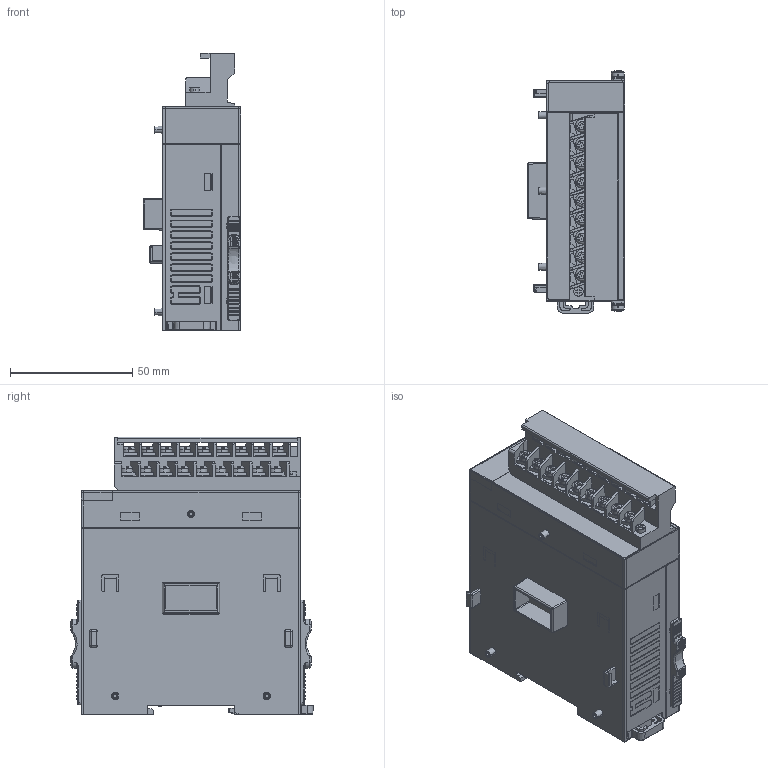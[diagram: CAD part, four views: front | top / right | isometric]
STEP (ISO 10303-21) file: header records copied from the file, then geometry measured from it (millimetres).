
FILE_DESCRIPTION((''),'2;1');
FILE_NAME('VC-0808ENR_ASM','2022-11-11T',('v3615'),(''),'CREO PARAMETRIC BY PTC INC, 2016260','CREO PARAMETRIC BY PTC INC, 2016260','');
FILE_SCHEMA(('AUTOMOTIVE_DESIGN { 1 0 10303 214 1 1 1 1 }'));
Products named in the file (35): PLC-RIGHT_SKEL0001; VC-0808ENR-P001; VC-0808ENR-P001_ASM; VC-0808ENR-P002; VC-0808ENR-P003; VC-0808ENR-P004; VC-0808ENR-P005; VC-0808ENT-P002; VC-0016ENR-P002; VC-0016ENT-P002; VC-1600ENN-P002; VC-4AD-P002; VC-4DA-P002; VC-4PT-P002; VC-4TC-P002; VC1-1614MAT-P008; VC1-1614MAT-P010; VC-0808ENR-P_ASM; VC0016ENRIO2; TB762-22V-9P-GY5-H; TB762-22V-9P-GY5-H-C; VC0016ENTIO2-519; VC0808ENRIO2-A1_0; VC0016ENTIO2-0929; VC0016ENRIO2_ASM; VC0016ENRIO1; VC0016ENRIO1-A1_0; VC0016ENRIO1_ASM; VC0808ENTLED; VC0016ENRLED-A1_0; VC0016LED-0927; VC0808ENTLED_ASM; VC-0808ENR-D_ASM; VC-8-8R-P002; VC-0808ENR_ASM
Assembly tree (35 placements, depth 4):
  VC-0808ENR_ASM
    PLC-RIGHT_SKEL0001
    VC-0808ENR-P_ASM
      VC-0808ENR-P001_ASM
        VC-0808ENR-P001
      VC-0808ENR-P002
      VC-0808ENR-P003
      VC-0808ENR-P004
      VC-0808ENR-P005
      VC-0808ENT-P002
      VC-0016ENR-P002
      VC-0016ENT-P002
      VC-1600ENN-P002
      VC-4AD-P002
      VC-4DA-P002
      VC-4PT-P002
      VC-4TC-P002
      VC1-1614MAT-P008
      VC1-1614MAT-P010  x2
    VC-0808ENR-D_ASM
      VC0016ENRIO2_ASM
        VC0016ENRIO2
        TB762-22V-9P-GY5-H
        TB762-22V-9P-GY5-H-C
        VC0016ENTIO2-519
        VC0808ENRIO2-A1_0
        VC0016ENTIO2-0929
      VC0016ENRIO1_ASM
        VC0016ENRIO1
        VC0016ENRIO1-A1_0
      VC0808ENTLED_ASM
        VC0808ENTLED
        VC0016ENRLED-A1_0
        VC0016LED-0927
    VC-8-8R-P002
Bounding box: 40 x 99.2 x 113.7 mm (x, y, z)
Volume: 356711.5 mm3; surface area: 167869.1 mm2
Topology: 25 solids, 25 shells, 4835 faces, 13129 edges, 8477 vertices
Faces by surface type: plane 3319, cylinder 1140, torus 181, bspline 125, cone 44, sphere 24, extrusion 2
Entity records: 195940 total; most frequent: CARTESIAN_POINT 33975, ORIENTED_EDGE 24762, DIRECTION 22248, EDGE_CURVE 12381, PRESENTATION_STYLE_ASSIGNMENT 11122, STYLED_ITEM 11062, CURVE_STYLE 11007, VECTOR 9738
